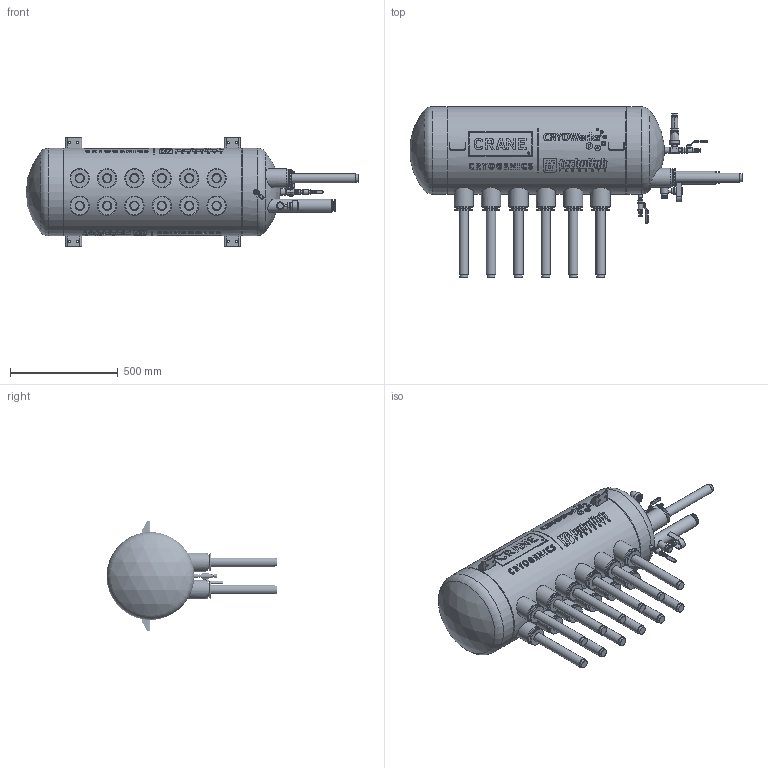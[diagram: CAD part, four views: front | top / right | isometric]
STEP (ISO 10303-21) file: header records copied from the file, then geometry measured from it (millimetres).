
FILE_DESCRIPTION (( 'STEP AP203' ), '1' );
FILE_NAME ('CA01790.step', '2025-12-17T20:03:46', ( '' ), ( '' ), 'SwSTEP 2.0', 'SolidWorks 2023', '' );
FILE_SCHEMA (( 'CONFIG_CONTROL_DESIGN' ));
Length unit declared in the file: inch
Products named in the file (1): CA01790
Bounding box: 1539.51 x 792.16 x 508 mm (x, y, z)
Volume: 156231046.4 mm3; surface area: 2788653.4 mm2
Topology: 1 solids, 13 shells, 2535 faces, 6323 edges, 4077 vertices
Faces by surface type: plane 1173, cylinder 668, cone 449, bspline 202, torus 29, sphere 14
Full cylindrical faces by diameter (mm): 4.182 x2, 4.581 x2, 4.75 x2, 4.775 x1, 4.977 x2, 5.527 x14, 5.71 x2, 6.221 x14, 6.272 x4, 6.35 x6, 6.446 x2, 7.112 x1, 7.722 x2, 7.976 x2, 8.307 x2, 8.598 x2, 9.188 x2, 9.246 x3, 9.322 x2, 9.525 x8, 9.544 x2, 9.842 x2, 10.171 x2, 10.262 x1, 10.661 x2, 11.112 x6, 11.225 x2, 12.494 x2, 12.7 x1, 12.804 x2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
Entity records: 174569 total; most frequent: CARTESIAN_POINT 120929, ORIENTED_EDGE 11386, DIRECTION 9791, EDGE_CURVE 5693, VERTEX_POINT 3893, AXIS2_PLACEMENT_3D 3768, EDGE_LOOP 3312, FACE_OUTER_BOUND 2775
